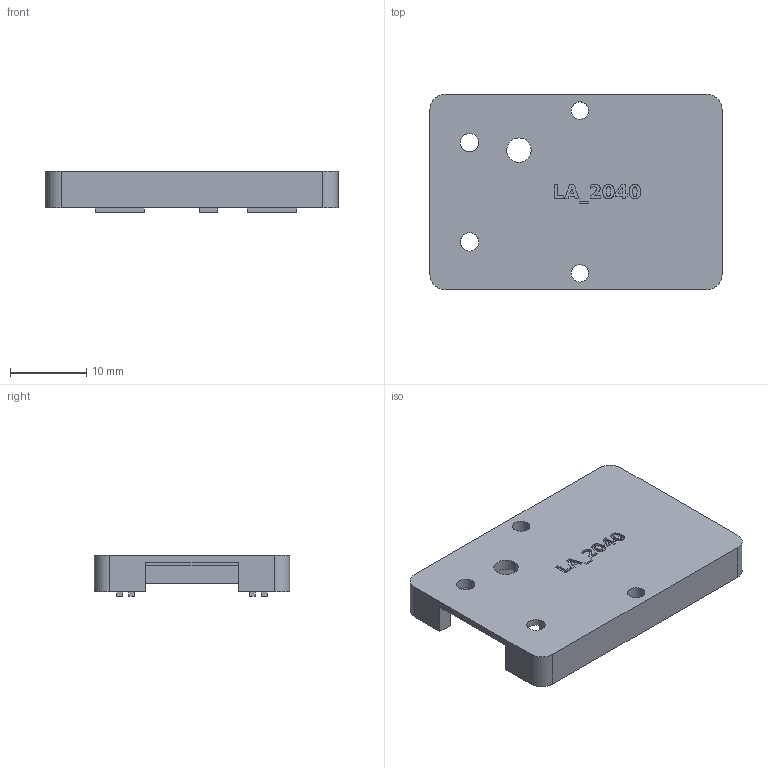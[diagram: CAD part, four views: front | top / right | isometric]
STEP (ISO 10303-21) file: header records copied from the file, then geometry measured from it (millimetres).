
FILE_DESCRIPTION(('Open CASCADE Model'),'2;1');
FILE_NAME('Open CASCADE Shape Model','2026-10-25T05:27:17',('Author'),( 'Open CASCADE'),'Open CASCADE STEP processor 7.8','Open CASCADE 7.8' ,'Unknown');
FILE_SCHEMA(('AUTOMOTIVE_DESIGN { 1 0 10303 214 1 1 1 1 }'));
Length unit declared in the file: millimetre
Products named in the file (1): Open CASCADE STEP translator 7.8 2
Bounding box: 38.4 x 25.7 x 5.45 mm (x, y, z)
Volume: 2466.9 mm3; surface area: 2946.9 mm2
Topology: 1 solids, 1 shells, 162 faces, 441 edges, 294 vertices
Faces by surface type: plane 105, extrusion 44, cylinder 13
Full cylindrical faces by diameter (mm): 2.3 x2, 2.4 x2, 3.2 x1
Entity records: 11621 total; most frequent: CARTESIAN_POINT 3283, DIRECTION 1307, VECTOR 1003, LINE 959, ORIENTED_EDGE 882, PCURVE 882, DEFINITIONAL_REPRESENTATION 882, EDGE_CURVE 441
